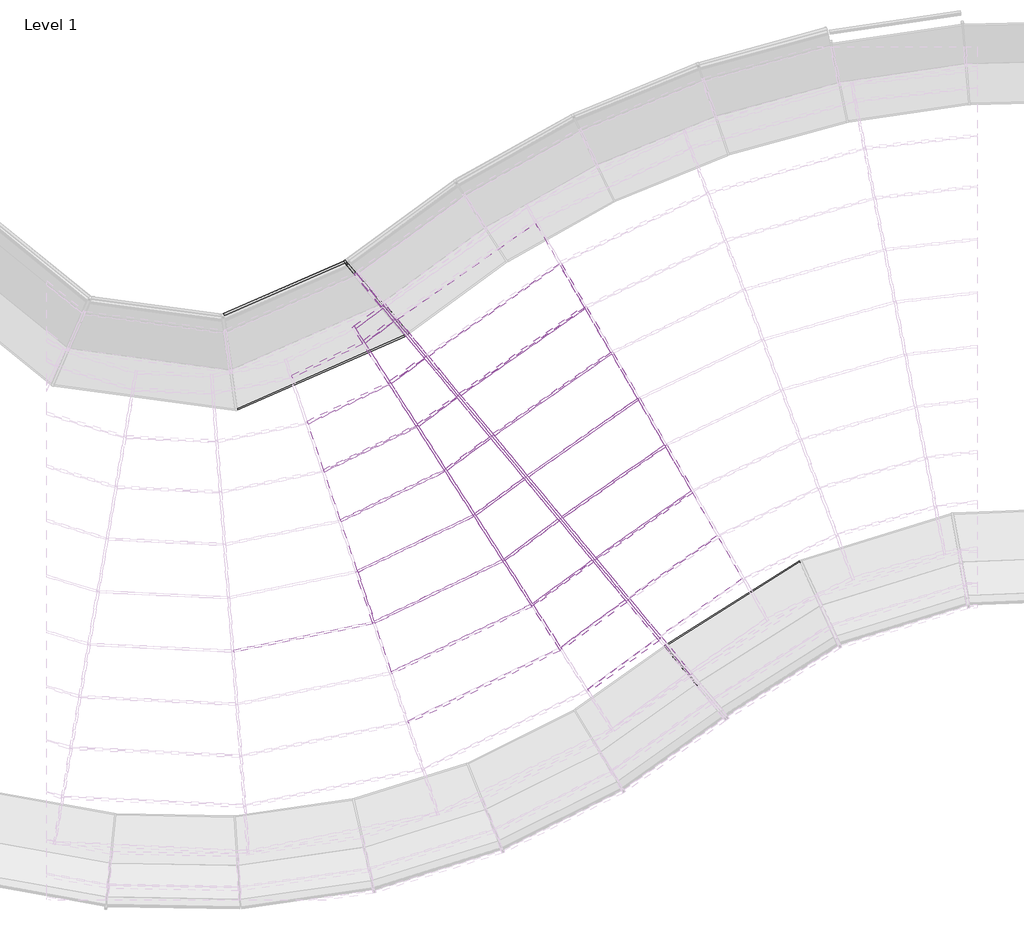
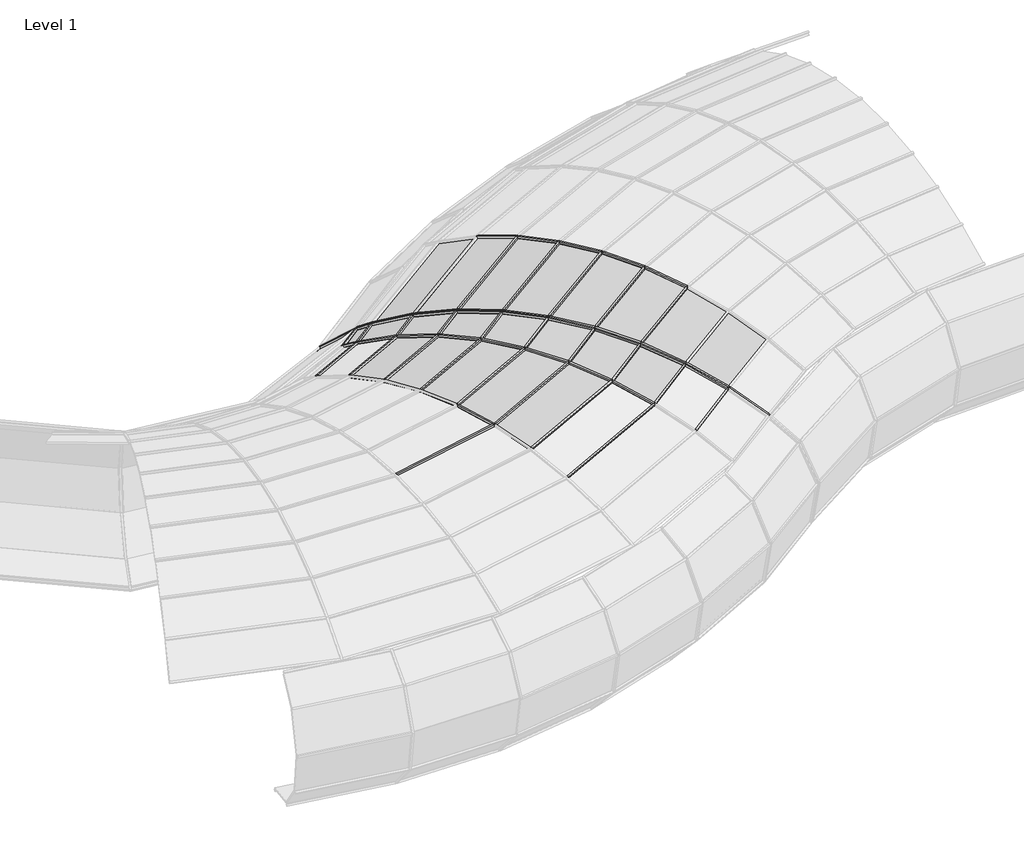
# One storey, part 7 of 23: 70 members, 21 plates.
"""IFC4 building model written with IfcOpenShell, lengths in millimetres."""

from ifc_helpers import new_model, si_unit, origin, place, context, project, spatial, transform, mapped, element, save
from components import member_da94d8b7, member_4a6620f8, member_4382594b, member_c4b67a82, member_09e3c60a, member_ff354828, member_c876edb5, member_88ffdf74, member_782630c7, member_6b724055, member_398e5ff5, member_61362789, member_0ea93e7c, member_4ad77235, member_01d9c279, member_724b312c, member_398607d0, member_12c77cbe, member_6b55b28e, member_04fa56c0, member_b16b9eb4, member_5ccaa950, member_ed473375, member_1e977d90, member_299080b6, member_172ab1ab, member_54499f2f, member_173a6c74, member_0cd36c09, member_d0a40a1c, member_ff9adfd2, member_8c9da58c, member_d6b8231b, member_916b48e0, member_15ddbe85, member_a6ff0e58, member_52a3ac57, member_58e85060, member_2f10e2aa, member_56cded33, member_ca6af547, member_2c27c1a6, member_cfe416e1, member_072b4eca, member_8050fb01, member_9defe418, member_57d99a8e, member_3bb0283d, member_54c9b6a8, member_1f55a63e, member_9f1fe171, member_9a79e7da, member_69edc900, system_panel_glazed_5132798e, system_panel_glazed_5b1ce257, system_panel_glazed_553bac9a, system_panel_glazed_7bf4cd1b, system_panel_glazed_fa5f9ab5, system_panel_glazed_9f229a92, system_panel_glazed_4f662df8, system_panel_glazed_a07c5774, system_panel_glazed_979220de, system_panel_glazed_4fd85c75, system_panel_glazed_ba917089, system_panel_glazed_62a807d2, system_panel_glazed_1a760a1a, system_panel_glazed_c234d933, system_panel_glazed_45c6f521, system_panel_glazed_a7bfc9ff, system_panel_glazed_a075d488, system_panel_glazed_9f62a084, system_panel_glazed_9237dc49, system_panel_glazed_82596321, system_panel_glazed_82ed8812

model = new_model("IFC4")

# Units and contexts
model_context = context("Model", 3, world=origin())
ifc_project = project(units=[si_unit("LENGTHUNIT", "METRE", prefix="MILLI")], contexts=[model_context])

# Site, building, storey
site = spatial("IfcSite", under=ifc_project)
building = spatial("IfcBuilding", under=site)
storey = spatial("IfcBuildingStorey", under=building, Name="Level 1", Elevation=0.0)

# Members
placement = place(None, origin())
member_shape = member_da94d8b7(model_context)
element("IfcMember", 1, ObjectType="Rectangular Mullion : 1\" Square", at=placement, inside=storey, context=model_context, shape_type="MappedRepresentation", body=[
    mapped(member_shape, transform((-4489.9913896, -7841.6452562, 0.0), x_axis=(-0.5112600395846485, 0.8116646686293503, -0.28251307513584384), y_axis=(0.1505714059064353, -0.23904369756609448, -0.9592634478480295), z_axis=(-0.8461332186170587, -0.5329714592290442, 0.0))),
])
member_2_shape = member_4a6620f8(model_context)
element("IfcMember", 2, ObjectType="Rectangular Mullion : 1\" Square", at=placement, inside=storey, context=model_context, shape_type="MappedRepresentation", body=[
    mapped(member_2_shape, transform((-4518.8359646, -5597.6563841, 2850.17796), x_axis=(-0.5707204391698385, 0.8169353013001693, 0.08303549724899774), y_axis=(0.04755427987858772, -0.06806970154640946, 0.9965465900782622), z_axis=(0.8197662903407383, 0.5726982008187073, 0.0))),
])
member_3_shape = member_4382594b(model_context)
element("IfcMember", 3, ObjectType="Rectangular Mullion : 1\" Square", at=placement, inside=storey, context=model_context, shape_type="MappedRepresentation", body=[
    mapped(member_3_shape, transform((-4825.2923278, -5070.8823003, 2864.5209769), x_axis=(-0.5723308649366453, 0.8192404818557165, -0.03581080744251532), y_axis=(-0.020508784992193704, 0.029356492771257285, 0.999358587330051), z_axis=(0.8197662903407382, 0.5726982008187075, 0.0))),
])
member_4_shape = member_c4b67a82(model_context)
element("IfcMember", 4, ObjectType="Rectangular Mullion : 1\" Square", at=placement, inside=storey, context=model_context, shape_type="MappedRepresentation", body=[
    mapped(member_4_shape, transform((-5130.4275491, -4546.3791542, 2806.2019711), x_axis=(-0.5658522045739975, 0.8099668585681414, -0.15415891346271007), y_axis=(-0.0882865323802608, 0.12637428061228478, 0.9880460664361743), z_axis=(0.8197662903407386, 0.5726982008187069, 0.0))),
])
member_5_shape = member_09e3c60a(model_context)
element("IfcMember", 5, ObjectType="Rectangular Mullion : 1\" Square", at=placement, inside=storey, context=model_context, shape_type="MappedRepresentation", body=[
    mapped(member_5_shape, transform((-5429.9006784, -4031.6086934, 2676.0506073), x_axis=(-0.5513709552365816, 0.7892382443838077, -0.27035728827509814), y_axis=(-0.15483313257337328, 0.2216297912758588, 0.9627600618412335), z_axis=(0.8197662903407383, 0.5726982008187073, 0.0))),
])
member_6_shape = member_ff354828(model_context)
element("IfcMember", 6, ObjectType="Rectangular Mullion : 1\" Square", at=placement, inside=storey, context=model_context, shape_type="MappedRepresentation", body=[
    mapped(member_6_shape, transform((-4215.4182046, -6119.2073508, 2763.3769688), x_axis=(-0.5610427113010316, 0.8030824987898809, 0.20072263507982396), y_axis=(0.11495349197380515, -0.16454564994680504, 0.9796481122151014), z_axis=(0.8197662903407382, 0.5726982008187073, 0.0))),
])
member_7_shape = member_c876edb5(model_context)
element("IfcMember", 7, ObjectType="Rectangular Mullion : 1\" Square", at=placement, inside=storey, context=model_context, shape_type="MappedRepresentation", body=[
    mapped(member_7_shape, transform((-7335.7836729, -5376.3649008, 2676.0506073), x_axis=(-0.4169348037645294, 0.867964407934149, -0.26982059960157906), y_axis=(-0.11683078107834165, 0.24321538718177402, 0.9629106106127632), z_axis=(0.9013966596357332, 0.4329942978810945, 0.0))),
])
member_8_shape = member_88ffdf74(model_context)
element("IfcMember", 8, ObjectType="Rectangular Mullion : 1\" Square", at=placement, inside=storey, context=model_context, shape_type="MappedRepresentation", body=[
    mapped(member_8_shape, transform((-6877.5951271, -5043.676963, 2676.0506073), x_axis=(-0.5687139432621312, 0.7765169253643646, -0.27126723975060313), y_axis=(-0.16028343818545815, 0.21884957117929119, 0.9625040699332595), z_axis=(0.8067674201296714, 0.5908691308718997, 0.0))),
])
member_9_shape = member_782630c7(model_context)
element("IfcMember", 9, ObjectType="Rectangular Mullion : 1\" Square", at=placement, inside=storey, context=model_context, shape_type="MappedRepresentation", body=[
    mapped(member_9_shape, transform((-7647.2779636, -4892.0813161, 2475.91846), x_axis=(-0.4001719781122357, 0.8330679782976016, -0.381916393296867), y_axis=(-0.16536762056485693, 0.34425816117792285, 0.9241968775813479), z_axis=(0.9013966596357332, 0.43299429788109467, 0.0))),
])
member_10_shape = member_6b724055(model_context)
element("IfcMember", 10, ObjectType="Rectangular Mullion : 1\" Square", at=placement, inside=storey, context=model_context, shape_type="MappedRepresentation", body=[
    mapped(member_10_shape, transform((-7245.3126771, -4600.5707826, 2475.91846), x_axis=(-0.5456170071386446, 0.7449805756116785, -0.3838046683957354), y_axis=(-0.2267783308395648, 0.3096411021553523, 0.9234143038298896), z_axis=(0.8067674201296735, 0.590869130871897, 0.0))),
])
member_11_shape = member_398e5ff5(model_context)
element("IfcMember", 11, ObjectType="Rectangular Mullion : 1\" Square", at=placement, inside=storey, context=model_context, shape_type="MappedRepresentation", body=[
    mapped(member_11_shape, transform((-7943.6663686, -4431.2830173, 2208.6526723), x_axis=(-0.37774860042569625, 0.7863875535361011, -0.4887746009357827), y_axis=(-0.21163661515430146, 0.44057979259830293, 0.8724101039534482), z_axis=(0.9013966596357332, 0.4329942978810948, 0.0))),
])
member_12_shape = member_61362789(model_context)
element("IfcMember", 12, ObjectType="Rectangular Mullion : 1\" Square", at=placement, inside=storey, context=model_context, shape_type="MappedRepresentation", body=[
    mapped(member_12_shape, transform((-7595.1977998, -4178.9529941, 2208.6526723), x_axis=(-0.5147657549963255, 0.7028565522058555, -0.4909265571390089), y_axis=(-0.2900733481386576, 0.3960635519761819, 0.8712009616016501), z_axis=(0.8067674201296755, 0.5908691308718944, 0.0))),
])
member_13_shape = member_0ea93e7c(model_context)
element("IfcMember", 13, ObjectType="Rectangular Mullion : 1\" Square", at=placement, inside=storey, context=model_context, shape_type="MappedRepresentation", body=[
    mapped(member_13_shape, transform((-6029.2614025, -7407.6293815, 2763.3769688), x_axis=(-0.42429548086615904, 0.8832876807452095, 0.19943976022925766), y_axis=(0.08635627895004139, -0.17977433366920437, 0.9799100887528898), z_axis=(0.9013966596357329, 0.43299429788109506, 0.0))),
])
member_14_shape = member_4ad77235(model_context)
element("IfcMember", 14, ObjectType="Rectangular Mullion : 1\" Square", at=placement, inside=storey, context=model_context, shape_type="MappedRepresentation", body=[
    mapped(member_14_shape, transform((-5335.2517115, -6902.2281787, 2763.3769688), x_axis=(-0.5788620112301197, 0.790373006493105, 0.20057238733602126), y_axis=(0.11851203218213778, -0.16181526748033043, 0.9796788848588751), z_axis=(0.8067674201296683, 0.5908691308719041, 0.0))),
])
member_15_shape = member_01d9c279(model_context)
element("IfcMember", 15, ObjectType="Rectangular Mullion : 1\" Square", at=placement, inside=storey, context=model_context, shape_type="MappedRepresentation", body=[
    mapped(member_15_shape, transform((-7824.936967, -7602.4746403, 2850.17796), x_axis=(-0.1982577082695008, 0.9766974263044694, 0.08219500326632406), y_axis=(0.0163511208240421, -0.08055221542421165, 0.9966162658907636), z_axis=(0.9800135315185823, 0.19893083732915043, 0.0))),
])
element("IfcMember", 16, ObjectType="Rectangular Mullion : 1\" Square", at=placement, inside=storey, context=model_context, shape_type="MappedRepresentation", body=[
    mapped(member_15_shape, transform((-6355.6737379, -6900.1525493, 2850.17796), x_axis=(-0.4315291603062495, 0.8983465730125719, 0.08219500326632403), y_axis=(0.035589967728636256, -0.07409030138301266, 0.9966162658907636), z_axis=(0.9013966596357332, 0.43299429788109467, 0.0))),
])
member_16_shape = member_724b312c(model_context)
element("IfcMember", 17, ObjectType="Rectangular Mullion : 1\" Square", at=placement, inside=storey, context=model_context, shape_type="MappedRepresentation", body=[
    mapped(member_16_shape, transform((-5720.5799434, -6437.900814, 2850.17796), x_axis=(-0.5888457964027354, 0.8040047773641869, 0.08268582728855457), y_axis=(0.04885650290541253, -0.06670823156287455, 0.9965756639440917), z_axis=(0.806767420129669, 0.5908691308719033, 0.0))),
])
member_17_shape = member_398607d0(model_context)
element("IfcMember", 18, ObjectType="Rectangular Mullion : 1\" Square", at=placement, inside=storey, context=model_context, shape_type="MappedRepresentation", body=[
    mapped(member_17_shape, transform((-6685.3549578, -6387.5935467, 2864.5209769), x_axis=(-0.4327109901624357, 0.9008068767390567, -0.036168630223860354), y_axis=(-0.015660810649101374, 0.03260228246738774, 0.9993457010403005), z_axis=(0.9013966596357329, 0.4329942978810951, 0.0))),
])
member_18_shape = member_12c77cbe(model_context)
element("IfcMember", 19, ObjectType="Rectangular Mullion : 1\" Square", at=placement, inside=storey, context=model_context, shape_type="MappedRepresentation", body=[
    mapped(member_18_shape, transform((-5710.7615966, -7902.8045174, 2605.3528615), x_axis=(-0.4110995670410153, 0.8558167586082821, 0.31396627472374), y_axis=(0.1359456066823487, -0.2830081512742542, 0.9494341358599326), z_axis=(0.9013966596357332, 0.4329942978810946, 0.0))),
])
member_19_shape = member_6b55b28e(model_context)
element("IfcMember", 20, ObjectType="Rectangular Mullion : 1\" Square", at=placement, inside=storey, context=model_context, shape_type="MappedRepresentation", body=[
    mapped(member_19_shape, transform((-4959.2641837, -7355.2998292, 2605.3528615), x_axis=(-0.5606647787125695, 0.7655266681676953, 0.3156325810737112), y_axis=(0.18649754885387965, -0.2546420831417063, 0.9488814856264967), z_axis=(0.8067674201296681, 0.5908691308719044, 0.0))),
])
member_20_shape = member_04fa56c0(model_context)
element("IfcMember", 21, ObjectType="Rectangular Mullion : 1\" Square", at=placement, inside=storey, context=model_context, shape_type="MappedRepresentation", body=[
    mapped(member_20_shape, transform((-4597.9662774, -7790.6702248, 2378.3537392), x_axis=(-0.5345056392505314, 0.7298092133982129, 0.42624198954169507), y_axis=(0.25185323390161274, -0.34387815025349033, 0.9046091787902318), z_axis=(0.8067674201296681, 0.5908691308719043, 0.0))),
])
member_21_shape = member_b16b9eb4(model_context)
element("IfcMember", 22, ObjectType="Rectangular Mullion : 1\" Square", at=placement, inside=storey, context=model_context, shape_type="MappedRepresentation", body=[
    mapped(member_21_shape, transform((-6109.7670779, -5968.9234028, 2864.5209769), x_axis=(-0.5904782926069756, 0.80623377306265, -0.0363660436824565), y_axis=(-0.02148757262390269, 0.029338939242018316, 0.9993385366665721), z_axis=(0.80676742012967, 0.5908691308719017, 0.0))),
])
member_22_shape = member_5ccaa950(model_context)
element("IfcMember", 23, ObjectType="Rectangular Mullion : 1\" Square", at=placement, inside=storey, context=model_context, shape_type="MappedRepresentation", body=[
    mapped(member_22_shape, transform((-7013.6149127, -5877.2442002, 2806.2019711), x_axis=(-0.4278261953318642, 0.8906378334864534, -0.1540421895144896), y_axis=(-0.0666993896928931, 0.13885311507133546, 0.9880642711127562), z_axis=(0.9013966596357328, 0.43299429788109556, 0.0))),
])
member_23_shape = member_ed473375(model_context)
element("IfcMember", 24, ObjectType="Rectangular Mullion : 1\" Square", at=placement, inside=storey, context=model_context, shape_type="MappedRepresentation", body=[
    mapped(member_23_shape, transform((-6497.276416, -5501.9677663, 2806.2019711), x_axis=(-0.5837367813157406, 0.7970289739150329, -0.15490702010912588), y_axis=(-0.0915297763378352, 0.12497393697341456, 0.9879290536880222), z_axis=(0.8067674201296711, 0.5908691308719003, 0.0))),
])
member_24_shape = member_1e977d90(model_context)
element("IfcMember", 25, ObjectType="Rectangular Mullion : 1\" Square", at=placement, inside=storey, context=model_context, shape_type="MappedRepresentation", body=[
    mapped(member_24_shape, transform((-7727.1639888, -4019.9313919, 2085.6089632), x_axis=(-0.5074428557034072, 0.6928579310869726, -0.5122983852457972), y_axis=(-0.3027013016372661, 0.4133056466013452, 0.8588075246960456), z_axis=(0.8067674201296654, 0.5908691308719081, 0.0))),
])
member_25_shape = member_299080b6(model_context)
element("IfcMember", 26, ObjectType="Rectangular Mullion : 1\" Square", at=placement, inside=storey, context=model_context, shape_type="MappedRepresentation", body=[
    mapped(member_25_shape, transform((-8148.9438553, -3515.3209351, 1116.1918244), x_axis=(-0.01100011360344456, 0.02505659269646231, -0.9996255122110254), y_axis=(-0.4018290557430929, 0.9153057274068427, 0.027364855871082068), z_axis=(0.9156486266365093, 0.40197959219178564, 0.0))),
])
member_26_shape = member_172ab1ab(model_context)
element("IfcMember", 27, ObjectType="Rectangular Mullion : 1\" Square", at=placement, inside=storey, context=model_context, shape_type="MappedRepresentation", body=[
    mapped(member_26_shape, transform((-7459.38962, -4355.6536205, 0.0), x_axis=(0.3905545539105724, -0.8896241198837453, -0.23671938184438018), y_axis=(-0.09515636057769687, 0.21675177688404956, -0.9715780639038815), z_axis=(0.9156486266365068, 0.4019795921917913, 0.0))),
])
member_27_shape = member_54499f2f(model_context)
element("IfcMember", 28, ObjectType="Rectangular Mullion : 1\" Square", at=placement, inside=storey, context=model_context, shape_type="MappedRepresentation", body=[
    mapped(member_27_shape, transform((-8050.414729, -3635.3945146, 526.7119632), x_axis=(0.21232057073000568, -0.4836341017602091, -0.849127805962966), y_axis=(-0.34133204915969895, 0.7775027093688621, -0.5281874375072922), z_axis=(0.9156486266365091, 0.4019795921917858, 0.0))),
])
member_28_shape = member_173a6c74(model_context)
element("IfcMember", 29, ObjectType="Rectangular Mullion : 1\" Square", at=placement, inside=storey, context=model_context, shape_type="MappedRepresentation", body=[
    mapped(member_28_shape, transform((-5700.0880509, -6422.892738, 2850.17796), x_axis=(0.7695535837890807, 0.6385806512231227, 0.0014260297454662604), y_axis=(0.013927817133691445, -0.019016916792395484, 0.9997221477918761), z_axis=(0.6384303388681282, -0.7693199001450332, -0.023528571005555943))),
])
member_29_shape = member_0cd36c09(model_context)
element("IfcMember", 30, ObjectType="Rectangular Mullion : 1\" Square", at=placement, inside=storey, context=model_context, shape_type="MappedRepresentation", body=[
    mapped(member_29_shape, transform((-4205.0071727, -6111.9340836, 2763.3769688), x_axis=(0.8643700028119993, 0.5028563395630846, 0.0), y_axis=(0.07160175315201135, -0.12307771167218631, 0.9898106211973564), z_axis=(0.4977325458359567, -0.855562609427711, -0.14239007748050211))),
])
element("IfcMember", 31, ObjectType="Rectangular Mullion : 1\" Square", at=placement, inside=storey, context=model_context, shape_type="MappedRepresentation", body=[
    mapped(member_29_shape, transform((-4508.4249327, -5590.3831169, 2850.17796), x_axis=(0.8643700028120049, 0.5028563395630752, 0.0), y_axis=(0.01183149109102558, -0.020337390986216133, 0.9997231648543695), z_axis=(0.5027171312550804, -0.864130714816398, -0.023528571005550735))),
])
element("IfcMember", 32, ObjectType="Rectangular Mullion : 1\" Square", at=placement, inside=storey, context=model_context, shape_type="MappedRepresentation", body=[
    mapped(member_29_shape, transform((-7812.4907951, -7599.9482187, 2850.17796), x_axis=(0.9479570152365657, 0.3183983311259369, 0.0), y_axis=(0.007491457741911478, -0.022304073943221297, 0.9997231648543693), z_axis=(0.31831018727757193, -0.9476945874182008, -0.02352857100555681))),
])
element("IfcMember", 33, ObjectType="Rectangular Mullion : 1\" Square", at=placement, inside=storey, context=model_context, shape_type="MappedRepresentation", body=[
    mapped(member_29_shape, transform((-5699.3138591, -7897.3054898, 2605.3528615), x_axis=(0.8410448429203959, 0.5409654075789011, 0.0), y_axis=(0.14023224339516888, -0.21802060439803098, 0.965816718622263), z_axis=(0.5224734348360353, -0.8122951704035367, -0.25922589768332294))),
])
element("IfcMember", 34, ObjectType="Rectangular Mullion : 1\" Square", at=placement, inside=storey, context=model_context, shape_type="MappedRepresentation", body=[
    mapped(member_29_shape, transform((-6017.813665, -7402.1303539, 2763.3769688), x_axis=(0.8410448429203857, 0.5409654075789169, 0.0), y_axis=(0.07702810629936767, -0.11975644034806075, 0.9898106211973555), z_axis=(0.5354533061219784, -0.8324751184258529, -0.14239007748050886))),
])
element("IfcMember", 35, ObjectType="Rectangular Mullion : 1\" Square", at=placement, inside=storey, context=model_context, shape_type="MappedRepresentation", body=[
    mapped(member_29_shape, transform((-6344.2260004, -6894.6535217, 2850.17796), x_axis=(0.8410448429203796, 0.5409654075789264, 0.0), y_axis=(0.012728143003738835, -0.01978858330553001, 0.9997231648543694), z_axis=(0.5408156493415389, -0.8408120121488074, -0.023528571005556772))),
])
element("IfcMember", 36, ObjectType="Rectangular Mullion : 1\" Square", at=placement, inside=storey, context=model_context, shape_type="MappedRepresentation", body=[
    mapped(member_29_shape, transform((-4814.8812959, -5063.6090332, 2864.5209769), x_axis=(0.8643700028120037, 0.5028563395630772, 0.0), y_axis=(-0.048107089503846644, 0.08269225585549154, 0.9954133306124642), z_axis=(0.5005499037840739, -0.8604054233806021, 0.0956676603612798))),
])
element("IfcMember", 37, ObjectType="Rectangular Mullion : 1\" Square", at=placement, inside=storey, context=model_context, shape_type="MappedRepresentation", body=[
    mapped(member_29_shape, transform((-5120.0165172, -4539.1058871, 2806.2019711), x_axis=(0.8643700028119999, 0.5028563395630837, 0.0), y_axis=(-0.10736128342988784, 0.18454549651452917, 0.9769424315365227), z_axis=(0.49126169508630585, -0.844439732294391, 0.21350289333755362))),
])
element("IfcMember", 38, ObjectType="Rectangular Mullion : 1\" Square", at=placement, inside=storey, context=model_context, shape_type="MappedRepresentation", body=[
    mapped(member_29_shape, transform((-5419.4896466, -4024.3354263, 2676.0506073), x_axis=(0.8643700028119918, 0.5028563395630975, 0.0), y_axis=(-0.1650881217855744, 0.2837733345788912, 0.9445732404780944), z_axis=(0.4749846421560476, -0.8164607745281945, 0.3283007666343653))),
])
element("IfcMember", 39, ObjectType="Rectangular Mullion : 1\" Square", at=placement, inside=storey, context=model_context, shape_type="MappedRepresentation", body=[
    mapped(member_29_shape, transform((-6673.9072202, -6382.0945191, 2864.5209769), x_axis=(0.8410448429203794, 0.5409654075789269, 0.0), y_axis=(-0.05175289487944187, 0.08046079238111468, 0.9954133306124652), z_axis=(0.5384841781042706, -0.8371872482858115, 0.09566766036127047))),
])
element("IfcMember", 40, ObjectType="Rectangular Mullion : 1\" Square", at=placement, inside=storey, context=model_context, shape_type="MappedRepresentation", body=[
    mapped(member_29_shape, transform((-7002.1671752, -5871.7451726, 2806.2019711), x_axis=(0.8410448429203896, 0.540965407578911, 0.0), y_axis=(-0.11549767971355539, 0.17956550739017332, 0.9769424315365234), z_axis=(0.5284920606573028, -0.821652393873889, 0.21350289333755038))),
])
element("IfcMember", 41, ObjectType="Rectangular Mullion : 1\" Square", at=placement, inside=storey, context=model_context, shape_type="MappedRepresentation", body=[
    mapped(member_29_shape, transform((-7324.3359353, -5370.8658733, 2676.0506073), x_axis=(0.8410448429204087, 0.5409654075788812, 0.0), y_axis=(-0.1775993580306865, 0.27611566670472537, 0.9445732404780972), z_axis=(0.5109814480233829, -0.7944284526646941, 0.3283007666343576))),
])
member_30_shape = member_d0a40a1c(model_context)
element("IfcMember", 42, ObjectType="Rectangular Mullion : 1\" Square", at=placement, inside=storey, context=model_context, shape_type="MappedRepresentation", body=[
    mapped(member_30_shape, transform((-7635.8302261, -4886.5822885, 2475.91846), x_axis=(0.8410448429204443, 0.5409654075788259, 0.0), y_axis=(-0.23717445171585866, 0.3687377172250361, 0.8987662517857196), z_axis=(0.48620145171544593, -0.7559027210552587, 0.4384281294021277))),
])
member_31_shape = member_ff9adfd2(model_context)
element("IfcMember", 43, ObjectType="Rectangular Mullion : 1\" Square", at=placement, inside=storey, context=model_context, shape_type="MappedRepresentation", body=[
    mapped(member_31_shape, transform((-7932.218631, -4425.7839898, 2208.6526723), x_axis=(0.8410448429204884, 0.5409654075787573, 0.0), y_axis=(-0.2767608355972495, 0.4302831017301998, 0.8592205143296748), z_axis=(0.46480857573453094, -0.7226429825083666, 0.5116054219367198))),
])
member_32_shape = member_8c9da58c(model_context)
element("IfcMember", 44, ObjectType="Rectangular Mullion : 1\" Square", at=placement, inside=storey, context=model_context, shape_type="MappedRepresentation", body=[
    mapped(member_32_shape, transform((-8019.1399957, -3654.2311779, 1696.6281859), x_axis=(0.7730505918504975, 0.6343443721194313, 0.0), y_axis=(-0.6039969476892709, 0.7360673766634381, 0.3056018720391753), z_axis=(0.19385682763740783, -0.23624570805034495, 0.9521593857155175))),
])
element("IfcMember", 45, ObjectType="Rectangular Mullion : 1\" Square", at=placement, inside=storey, context=model_context, shape_type="MappedRepresentation", body=[
    mapped(member_32_shape, transform((-8137.3151178, -3510.2157943, 1116.1918244), x_axis=(0.7730505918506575, 0.6343443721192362, 0.0), y_axis=(-0.6134075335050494, 0.7475356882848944, -0.25479715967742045), z_axis=(-0.16162914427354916, 0.19697109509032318, 0.9669945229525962))),
])
member_33_shape = member_d6b8231b(model_context)
element("IfcMember", 46, ObjectType="Rectangular Mullion : 1\" Square", at=placement, inside=storey, context=model_context, shape_type="MappedRepresentation", body=[
    mapped(member_33_shape, transform((-7721.3991846, -4017.0762197, 2085.6089632), x_axis=(0.7730505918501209, 0.6343443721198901, 0.0), y_axis=(-0.4047699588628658, 0.4932772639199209, 0.7699602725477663), z_axis=(0.48841996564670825, -0.5952182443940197, 0.6380918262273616))),
])
member_34_shape = member_916b48e0(model_context)
element("IfcMember", 47, ObjectType="Rectangular Mullion : 1\" Square", at=placement, inside=storey, context=model_context, shape_type="MappedRepresentation", body=[
    mapped(member_34_shape, transform((-7706.6720964, -4004.923316, 2085.6089632), x_axis=(-0.7827135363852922, -0.6213115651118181, 0.036489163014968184), y_axis=(-0.29373978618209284, 0.4204622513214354, 0.8584453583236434), z_axis=(-0.5487043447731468, 0.661198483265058, -0.5116054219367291))),
])
member_35_shape = member_15ddbe85(model_context)
element("IfcMember", 48, ObjectType="Rectangular Mullion : 1\" Square", at=placement, inside=storey, context=model_context, shape_type="MappedRepresentation", body=[
    mapped(member_35_shape, transform((-4577.4743849, -7775.6621489, 2378.3537392), x_axis=(-0.7811473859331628, -0.6233665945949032, -0.03496927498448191), y_axis=(0.27575183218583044, -0.3947141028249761, 0.8764483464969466), z_axis=(-0.560151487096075, 0.6749924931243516, 0.48022437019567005))),
])
member_36_shape = member_a6ff0e58(model_context)
element("IfcMember", 49, ObjectType="Rectangular Mullion : 1\" Square", at=placement, inside=storey, context=model_context, shape_type="MappedRepresentation", body=[
    mapped(member_36_shape, transform((-4938.7722912, -7340.2917533, 2605.3528615), x_axis=(-0.7765185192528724, -0.6294404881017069, -0.028699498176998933), y_axis=(0.21389029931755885, -0.3061648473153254, 0.927638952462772), z_axis=(-0.5926802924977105, 0.7141902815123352, 0.3723738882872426))),
])
member_37_shape = member_52a3ac57(model_context)
element("IfcMember", 50, ObjectType="Rectangular Mullion : 1\" Square", at=placement, inside=storey, context=model_context, shape_type="MappedRepresentation", body=[
    mapped(member_37_shape, transform((-5314.759819, -6887.2201028, 2763.3769688), x_axis=(-0.7729190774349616, -0.6341637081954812, -0.02079641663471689), y_axis=(0.1489351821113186, -0.21318740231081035, 0.9655927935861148), z_axis=(-0.6167774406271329, 0.7432277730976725, 0.25922589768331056))),
])
element("IfcMember", 51, ObjectType="Rectangular Mullion : 1\" Square", at=placement, inside=storey, context=model_context, shape_type="MappedRepresentation", body=[
    mapped(member_37_shape, transform((-6857.1032347, -5028.668887, 2676.0506073), x_axis=(0.7735525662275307, 0.6334533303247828, -0.018796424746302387), y_axis=(-0.1943004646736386, 0.2652961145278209, 0.9443862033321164), z_axis=(0.6032112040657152, -0.7268802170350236, 0.3283007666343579))),
])
member_38_shape = member_58e85060(model_context)
element("IfcMember", 52, ObjectType="Rectangular Mullion : 1\" Square", at=placement, inside=storey, context=model_context, shape_type="MappedRepresentation", body=[
    mapped(member_38_shape, transform((-5700.0880509, -6422.892738, 2850.17796), x_axis=(-0.7705547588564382, -0.6372662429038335, -0.011708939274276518), y_axis=(0.08182178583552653, -0.1171205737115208, 0.9897413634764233), z_axis=(-0.6321001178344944, 0.7616918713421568, 0.14239007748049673))),
])
element("IfcMember", 53, ObjectType="Rectangular Mullion : 1\" Square", at=placement, inside=storey, context=model_context, shape_type="MappedRepresentation", body=[
    mapped(member_38_shape, transform((-6476.7845235, -5486.9596904, 2806.2019711), x_axis=(0.771233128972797, 0.6364272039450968, -0.012644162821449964), y_axis=(-0.12637330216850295, 0.17254897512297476, 0.9768606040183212), z_axis=(0.6238824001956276, -0.7517893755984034, 0.2135028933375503))),
])
member_39_shape = member_2f10e2aa(model_context)
element("IfcMember", 54, ObjectType="Rectangular Mullion : 1\" Square", at=placement, inside=storey, context=model_context, shape_type="MappedRepresentation", body=[
    mapped(member_39_shape, transform((-6089.2751855, -5953.9153269, 2864.5209769), x_axis=(-0.7695608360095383, -0.6385705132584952, -0.001954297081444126), y_axis=(0.01352117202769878, -0.0193543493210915, 0.999721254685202), z_axis=(-0.6384303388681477, 0.7693199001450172, 0.02352857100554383))),
])
member_40_shape = member_56cded33(model_context)
element("IfcMember", 55, ObjectType="Rectangular Mullion : 1\" Square", at=placement, inside=storey, context=model_context, shape_type="MappedRepresentation", body=[
    mapped(member_40_shape, transform((-6476.7845235, -5486.9596904, 2806.2019711), x_axis=(-0.769994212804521, -0.6380018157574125, 0.007911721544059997), y_axis=(-0.05497573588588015, 0.07869285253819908, 0.9953818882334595), z_axis=(-0.6356780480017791, 0.7660033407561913, -0.09566766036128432))),
])
element("IfcMember", 56, ObjectType="Rectangular Mullion : 1\" Square", at=placement, inside=storey, context=model_context, shape_type="MappedRepresentation", body=[
    mapped(member_40_shape, transform((-5314.759819, -6887.2201028, 2763.3769688), x_axis=(0.770289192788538, 0.6376374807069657, 0.008544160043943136), y_axis=(0.08428523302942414, -0.11508230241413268, 0.989773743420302), z_axis=(0.6321001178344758, -0.7616918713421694, -0.14239007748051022))),
])
member_41_shape = member_ca6af547(model_context)
element("IfcMember", 57, ObjectType="Rectangular Mullion : 1\" Square", at=placement, inside=storey, context=model_context, shape_type="MappedRepresentation", body=[
    mapped(member_41_shape, transform((-6857.1032347, -5028.668887, 2676.0506073), x_axis=(-0.771830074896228, -0.6355927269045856, 0.01732688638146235), y_axis=(-0.12267471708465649, 0.17559789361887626, 0.9767887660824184), z_axis=(-0.6238824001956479, 0.7517893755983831, -0.21350289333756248))),
])
element("IfcMember", 58, ObjectType="Rectangular Mullion : 1\" Square", at=placement, inside=storey, context=model_context, shape_type="MappedRepresentation", body=[
    mapped(member_41_shape, transform((-4938.7722912, -7340.2917533, 2605.3528615), x_axis=(0.7720392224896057, 0.6353936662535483, 0.015176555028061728), y_axis=(0.15343085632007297, -0.20949311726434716, 0.965697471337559), z_axis=(0.616777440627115, -0.7432277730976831, -0.25922589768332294))),
])
member_42_shape = member_2c27c1a6(model_context)
element("IfcMember", 59, ObjectType="Rectangular Mullion : 1\" Square", at=placement, inside=storey, context=model_context, shape_type="MappedRepresentation", body=[
    mapped(member_42_shape, transform((-7224.8207847, -4585.5627067, 2475.91846), x_axis=(-0.7749633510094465, -0.6314811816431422, 0.02575503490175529), y_axis=(-0.18859493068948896, 0.26995678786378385, 0.9442220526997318), z_axis=(-0.6032112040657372, 0.7268802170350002, -0.3283007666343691))),
])
member_43_shape = member_cfe416e1(model_context)
element("IfcMember", 60, ObjectType="Rectangular Mullion : 1\" Square", at=placement, inside=storey, context=model_context, shape_type="MappedRepresentation", body=[
    mapped(member_43_shape, transform((-7574.7059074, -4163.9449181, 2208.6526723), x_axis=(-0.7792148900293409, -0.6259023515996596, 0.03271698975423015), y_axis=(-0.2517851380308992, 0.36040792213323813, 0.8981705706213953), z_axis=(-0.5739585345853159, 0.6916302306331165, -0.438428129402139))),
])
member_44_shape = member_072b4eca(model_context)
element("IfcMember", 61, ObjectType="Rectangular Mullion : 1\" Square", at=placement, inside=storey, context=model_context, shape_type="MappedRepresentation", body=[
    mapped(member_44_shape, transform((-7431.1949615, -4336.8781574, 0.0), x_axis=(-0.7714841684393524, -0.6361048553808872, -0.013520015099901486), y_axis=(-0.13515039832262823, 0.18460447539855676, -0.9734760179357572), z_axis=(0.6217286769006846, -0.74919410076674, -0.22838925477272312))),
])
member_45_shape = member_8050fb01(model_context)
element("IfcMember", 62, ObjectType="Rectangular Mullion : 1\" Square", at=placement, inside=storey, context=model_context, shape_type="MappedRepresentation", body=[
    mapped(member_45_shape, transform((-4577.4743849, -7775.6621489, 2378.3537392), x_axis=(0.7747039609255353, 0.6319770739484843, 0.020946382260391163), y_axis=(0.2203720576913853, -0.30089403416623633, 0.9278463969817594), z_axis=(0.5926802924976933, -0.714190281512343, -0.37237388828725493))),
])
member_46_shape = member_9defe418(model_context)
element("IfcMember", 63, ObjectType="Rectangular Mullion : 1\" Square", at=placement, inside=storey, context=model_context, shape_type="MappedRepresentation", body=[
    mapped(member_46_shape, transform((-6089.2751855, -5953.9153269, 2864.5209769), x_axis=(0.7698743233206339, 0.6381694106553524, -0.005773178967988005), y_axis=(-0.05662990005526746, 0.07732195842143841, 0.9953965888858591), z_axis=(0.635678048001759, -0.7660033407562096, 0.09566766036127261))),
])
member_47_shape = member_57d99a8e(model_context)
element("IfcMember", 64, ObjectType="Rectangular Mullion : 1\" Square", at=placement, inside=storey, context=model_context, shape_type="MappedRepresentation", body=[
    mapped(member_47_shape, transform((-7224.8207847, -4585.5627067, 2475.91846), x_axis=(0.7767005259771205, 0.6294171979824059, -0.0238806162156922), y_axis=(-0.2594376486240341, 0.35423384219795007, 0.8984489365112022), z_axis=(0.5739585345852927, -0.6916302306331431, 0.4384281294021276))),
])
member_48_shape = member_3bb0283d(model_context)
element("IfcMember", 65, ObjectType="Rectangular Mullion : 1\" Square", at=placement, inside=storey, context=model_context, shape_type="MappedRepresentation", body=[
    mapped(member_48_shape, transform((-7574.7059074, -4163.9449181, 2208.6526723), x_axis=(0.7792916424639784, 0.6260950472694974, -0.02663696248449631), y_axis=(-0.3027013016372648, 0.41330564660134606, 0.8588075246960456), z_axis=(0.5487043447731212, -0.6611984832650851, 0.5116054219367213))),
])
member_49_shape = member_54c9b6a8(model_context)
element("IfcMember", 66, ObjectType="Rectangular Mullion : 1\" Square", at=placement, inside=storey, context=model_context, shape_type="MappedRepresentation", body=[
    mapped(member_49_shape, transform((-4511.4831733, -7855.1827313, 0.0), x_axis=(0.7731223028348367, 0.6339365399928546, -0.020158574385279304), y_axis=(0.16280010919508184, -0.2290617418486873, -0.959701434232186), z_axis=(-0.6130073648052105, 0.7386847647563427, -0.28029767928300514))),
])
member_50_shape = member_1f55a63e(model_context)
element("IfcMember", 67, ObjectType="Rectangular Mullion : 1\" Square", at=placement, inside=storey, context=model_context, shape_type="MappedRepresentation", body=[
    mapped(member_50_shape, transform((-8006.4137076, -3643.7293495, 1696.6281859), x_axis=(0.7711301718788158, 0.6366770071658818, -0.0008040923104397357), y_axis=(-0.6060288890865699, 0.7343957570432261, 0.305600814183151), z_axis=(0.19515953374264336, -0.23517070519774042, 0.9521593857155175))),
])
member_51_shape = member_9f1fe171(model_context)
element("IfcMember", 68, ObjectType="Rectangular Mullion : 1\" Square", at=placement, inside=storey, context=model_context, shape_type="MappedRepresentation", body=[
    mapped(member_51_shape, transform((-8125.3829594, -3500.3692876, 1116.1918244), x_axis=(0.7711803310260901, 0.6366163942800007, 0.0006808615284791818), y_axis=(-0.6154710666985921, 0.7458379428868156, -0.2547962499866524), z_axis=(-0.16271528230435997, 0.19607480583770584, 0.9669945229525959))),
])
member_52_shape = member_9a79e7da(model_context)
element("IfcMember", 69, ObjectType="Rectangular Mullion : 1\" Square", at=placement, inside=storey, context=model_context, shape_type="MappedRepresentation", body=[
    mapped(member_52_shape, transform((-8026.1917233, -3619.8964892, 526.7119632), x_axis=(0.7703426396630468, 0.6376286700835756, 0.0013771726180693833), y_axis=(-0.4314917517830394, 0.5228887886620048, -0.7351205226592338), z_axis=(-0.4694540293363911, 0.5657004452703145, 0.6779350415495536))),
])
member_53_shape = member_69edc900(model_context)
element("IfcMember", 70, ObjectType="Rectangular Mullion : 1\" Square", at=placement, inside=storey, context=model_context, shape_type="MappedRepresentation", body=[
    mapped(member_53_shape, transform((-7706.6720964, -4004.923316, 2085.6089632), x_axis=(0.7702502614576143, 0.6377403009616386, -0.0013576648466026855), y_axis=(-0.40613244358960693, 0.49215796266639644, 0.7699590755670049), z_axis=(0.4917021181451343, -0.5925097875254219, 0.63809182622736))),
])

# Plates
system_panel_glazed_shape = system_panel_glazed_5132798e(model_context)
element("IfcPlate", 71, ObjectType="System Panel : Glazed", at=placement, inside=storey, context=model_context, shape_type="MappedRepresentation", body=[
    mapped(system_panel_glazed_shape, transform((-5331.421451, -7612.6625809, 2608.6506677), x_axis=(0.8067674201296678, 0.5908691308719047, 0.0), y_axis=(-0.15343085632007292, 0.2094931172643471, -0.9656974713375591), z_axis=(-0.5706008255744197, 0.7790932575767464, 0.2596697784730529))),
])
system_panel_glazed_2_shape = system_panel_glazed_5b1ce257(model_context)
element("IfcPlate", 72, ObjectType="System Panel : Glazed", at=placement, inside=storey, context=model_context, shape_type="MappedRepresentation", body=[
    mapped(system_panel_glazed_2_shape, transform((-6824.5354177, -7775.7031782, 2765.1989775), x_axis=(0.9013966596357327, 0.4329942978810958, 0.0), y_axis=(-0.06211963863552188, 0.12931910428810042, -0.9896553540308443), z_axis=(-0.4285151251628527, 0.8920720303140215, 0.14346525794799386))),
])
system_panel_glazed_3_shape = system_panel_glazed_553bac9a(model_context)
element("IfcPlate", 73, ObjectType="System Panel : Glazed", at=placement, inside=storey, context=model_context, shape_type="MappedRepresentation", body=[
    mapped(system_panel_glazed_3_shape, transform((-5678.8462296, -7138.2928275, 2765.1885754), x_axis=(0.8067674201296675, 0.5908691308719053, 0.0), y_axis=(-0.08428523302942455, 0.11508230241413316, -0.989773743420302), z_axis=(-0.5848267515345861, 0.7985172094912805, 0.1426461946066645))),
])
system_panel_glazed_4_shape = system_panel_glazed_7bf4cd1b(model_context)
element("IfcPlate", 74, ObjectType="System Panel : Glazed", at=placement, inside=storey, context=model_context, shape_type="MappedRepresentation", body=[
    mapped(system_panel_glazed_4_shape, transform((-7083.8558794, -7235.8563508, 2850.4790751), x_axis=(0.9013966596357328, 0.4329942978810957, 0.0), y_axis=(-0.010266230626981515, 0.02137198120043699, -0.999718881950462), z_axis=(-0.4328725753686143, 0.9011432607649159, 0.023709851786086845))),
])
system_panel_glazed_5_shape = system_panel_glazed_fa5f9ab5(model_context)
element("IfcPlate", 75, ObjectType="System Panel : Glazed", at=placement, inside=storey, context=model_context, shape_type="MappedRepresentation", body=[
    mapped(system_panel_glazed_5_shape, transform((-6034.7913524, -6652.2889345, 2850.4773212), x_axis=(0.8067674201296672, 0.5908691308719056, 0.0), y_axis=(-0.013927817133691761, 0.019016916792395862, -0.999722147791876), z_axis=(-0.5907049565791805, 0.8065432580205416, 0.02357174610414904))),
])
system_panel_glazed_6_shape = system_panel_glazed_9f229a92(model_context)
element("IfcPlate", 76, ObjectType="System Panel : Glazed", at=placement, inside=storey, context=model_context, shape_type="MappedRepresentation", body=[
    mapped(system_panel_glazed_6_shape, transform((-7345.6933704, -6690.7696351, 2863.296718), x_axis=(0.9013966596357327, 0.4329942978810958, 0.0), y_axis=(0.04173993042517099, -0.0868931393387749, -0.9953428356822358), z_axis=(-0.43097777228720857, 0.8971987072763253, -0.09639833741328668))),
])
system_panel_glazed_7_shape = system_panel_glazed_4f662df8(model_context)
element("IfcPlate", 77, ObjectType="System Panel : Glazed", at=placement, inside=storey, context=model_context, shape_type="MappedRepresentation", body=[
    mapped(system_panel_glazed_7_shape, transform((-6394.1929893, -6161.5649877, 2863.3037873), x_axis=(0.8067674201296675, 0.5908691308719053, 0.0), y_axis=(0.05662990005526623, -0.07732195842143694, -0.9953965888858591), z_axis=(-0.5881491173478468, 0.8030535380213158, -0.09584169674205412))),
])
system_panel_glazed_8_shape = system_panel_glazed_a07c5774(model_context)
element("IfcPlate", 78, ObjectType="System Panel : Glazed", at=placement, inside=storey, context=model_context, shape_type="MappedRepresentation", body=[
    mapped(system_panel_glazed_8_shape, transform((-7606.3229546, -6148.1975095, 2803.4705448), x_axis=(0.9013966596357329, 0.43299429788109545, 0.0), y_axis=(0.09312535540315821, -0.1938660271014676, -0.9765979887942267), z_axis=(-0.4228613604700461, 0.8803021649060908, -0.21507293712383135))),
])
system_panel_glazed_9_shape = system_panel_glazed_979220de(model_context)
element("IfcPlate", 79, ObjectType="System Panel : Glazed", at=placement, inside=storey, context=model_context, shape_type="MappedRepresentation", body=[
    mapped(system_panel_glazed_9_shape, transform((-6751.9381975, -5673.1021632, 2803.4857335), x_axis=(0.8067674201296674, 0.5908691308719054, 0.0), y_axis=(0.126373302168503, -0.1725489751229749, -0.9768606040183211), z_axis=(-0.57719677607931, 0.7880993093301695, -0.21387697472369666))),
])
system_panel_glazed_10_shape = system_panel_glazed_4fd85c75(model_context)
element("IfcPlate", 80, ObjectType="System Panel : Glazed", at=placement, inside=storey, context=model_context, shape_type="MappedRepresentation", body=[
    mapped(system_panel_glazed_10_shape, transform((-7862.0370274, -5615.858372, 2671.8525455), x_axis=(0.901396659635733, 0.43299429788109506, 0.0), y_axis=(0.14312888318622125, -0.2979621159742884, -0.9437863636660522), z_axis=(-0.408654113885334, 0.8507258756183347, -0.3305560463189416))),
])
system_panel_glazed_11_shape = system_panel_glazed_ba917089(model_context)
element("IfcPlate", 81, ObjectType="System Panel : Glazed", at=placement, inside=storey, context=model_context, shape_type="MappedRepresentation", body=[
    mapped(system_panel_glazed_11_shape, transform((-7102.9376577, -5193.8494134, 2671.8743595), x_axis=(0.8067674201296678, 0.5908691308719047, 0.0), y_axis=(0.19430046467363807, -0.2652961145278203, -0.9443862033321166), z_axis=(-0.5580086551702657, 0.7619000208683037, -0.32883840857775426))),
])
system_panel_glazed_12_shape = system_panel_glazed_62a807d2(model_context)
element("IfcPlate", 82, ObjectType="System Panel : Glazed", at=placement, inside=storey, context=model_context, shape_type="MappedRepresentation", body=[
    mapped(system_panel_glazed_12_shape, transform((-7442.1980673, -4730.6246188, 2470.3421691), x_axis=(0.8067674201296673, 0.5908691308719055, 0.0), y_axis=(0.25943764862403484, -0.354233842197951, -0.8984489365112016), z_axis=(-0.5308657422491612, 0.7248393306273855, -0.4390780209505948))),
])
system_panel_glazed_13_shape = system_panel_glazed_1a760a1a(model_context)
element("IfcPlate", 83, ObjectType="System Panel : Glazed", at=placement, inside=storey, context=model_context, shape_type="MappedRepresentation", body=[
    mapped(system_panel_glazed_13_shape, transform((-7765.0367056, -4289.8222593, 2202.1464828), x_axis=(0.8067674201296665, 0.5908691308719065, 0.0), y_axis=(0.30270130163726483, -0.41330564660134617, -0.8588075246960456), z_axis=(-0.5074428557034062, 0.6928579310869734, -0.5122983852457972))),
])
system_panel_glazed_14_shape = system_panel_glazed_c234d933(model_context)
element("IfcPlate", 84, ObjectType="System Panel : Glazed", at=placement, inside=storey, context=model_context, shape_type="MappedRepresentation", body=[
    mapped(system_panel_glazed_14_shape, transform((-4102.487652, -7429.4597429, 2383.0969125), x_axis=(0.8197662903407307, 0.5726982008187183, 0.0), y_axis=(-0.2138902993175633, 0.3061648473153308, -0.9276389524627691), z_axis=(-0.5312571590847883, 0.7604471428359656, 0.37347821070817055))),
])
system_panel_glazed_15_shape = system_panel_glazed_45c6f521(model_context)
element("IfcPlate", 85, ObjectType="System Panel : Glazed", at=placement, inside=storey, context=model_context, shape_type="MappedRepresentation", body=[
    mapped(system_panel_glazed_15_shape, transform((-4425.6591859, -6966.8658338, 2608.6556077), x_axis=(0.819766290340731, 0.5726982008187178, 0.0), y_axis=(-0.1489351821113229, 0.2131874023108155, -0.9655927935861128), z_axis=(-0.5529932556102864, 0.791560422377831, 0.260058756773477))),
])
system_panel_glazed_16_shape = system_panel_glazed_a7bfc9ff(model_context)
element("IfcPlate", 86, ObjectType="System Panel : Glazed", at=placement, inside=storey, context=model_context, shape_type="MappedRepresentation", body=[
    mapped(system_panel_glazed_16_shape, transform((-4761.8590631, -6485.623956, 2765.1914265), x_axis=(0.8197662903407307, 0.5726982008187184, 0.0), y_axis=(-0.0818217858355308, 0.11712057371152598, -0.9897413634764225), z_axis=(-0.5668230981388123, 0.8113566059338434, 0.14287068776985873))),
])
system_panel_glazed_17_shape = system_panel_glazed_a075d488(model_context)
element("IfcPlate", 87, ObjectType="System Panel : Glazed", at=placement, inside=storey, context=model_context, shape_type="MappedRepresentation", body=[
    mapped(system_panel_glazed_17_shape, transform((-5106.3042899, -5992.5806409, 2850.4778018), x_axis=(0.8197662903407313, 0.5726982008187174, 0.0), y_axis=(-0.013521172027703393, 0.01935434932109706, -0.9997212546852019), z_axis=(-0.5725385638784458, 0.8195377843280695, 0.023609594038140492))),
])
system_panel_glazed_18_shape = system_panel_glazed_9f62a084(model_context)
element("IfcPlate", 88, ObjectType="System Panel : Glazed", at=placement, inside=storey, context=model_context, shape_type="MappedRepresentation", body=[
    mapped(system_panel_glazed_18_shape, transform((-5454.0946324, -5494.7501791, 2863.3018499), x_axis=(0.8197662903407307, 0.5726982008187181, 0.0), y_axis=(0.05497573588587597, -0.07869285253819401, -0.9953818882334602), z_axis=(-0.570053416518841, 0.8159805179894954, -0.09599425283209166))),
])
system_panel_glazed_19_shape = system_panel_glazed_9237dc49(model_context)
element("IfcPlate", 89, ObjectType="System Panel : Glazed", at=placement, inside=storey, context=model_context, shape_type="MappedRepresentation", body=[
    mapped(system_panel_glazed_19_shape, transform((-5800.282336, -4999.2148201, 2803.4815699), x_axis=(0.8197662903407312, 0.5726982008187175, 0.0), y_axis=(0.12267471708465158, -0.17559789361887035, -0.97678876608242), z_axis=(-0.5594051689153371, 0.8007385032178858, -0.21420482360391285))),
])
system_panel_glazed_20_shape = system_panel_glazed_82596321(model_context)
element("IfcPlate", 90, ObjectType="System Panel : Glazed", at=placement, inside=storey, context=model_context, shape_type="MappedRepresentation", body=[
    mapped(system_panel_glazed_20_shape, transform((-6139.9425103, -4513.0240238, 2671.8683773), x_axis=(0.8197662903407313, 0.5726982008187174, 0.0), y_axis=(0.18859493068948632, -0.2699567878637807, -0.9442220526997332), z_axis=(-0.5407542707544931, 0.7740414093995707, -0.32930945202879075))),
])
system_panel_glazed_21_shape = system_panel_glazed_82ed8812(model_context)
element("IfcPlate", 91, ObjectType="System Panel : Glazed", at=placement, inside=storey, context=model_context, shape_type="MappedRepresentation", body=[
    mapped(system_panel_glazed_21_shape, transform((-6468.2431794, -4043.0941949, 2470.3349411), x_axis=(0.8197662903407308, 0.572698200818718, 0.0), y_axis=(0.25178513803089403, -0.3604079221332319, -0.8981705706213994), z_axis=(-0.5143806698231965, 0.736289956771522, -0.43964716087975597))),
])

save(model, "model.ifc")
